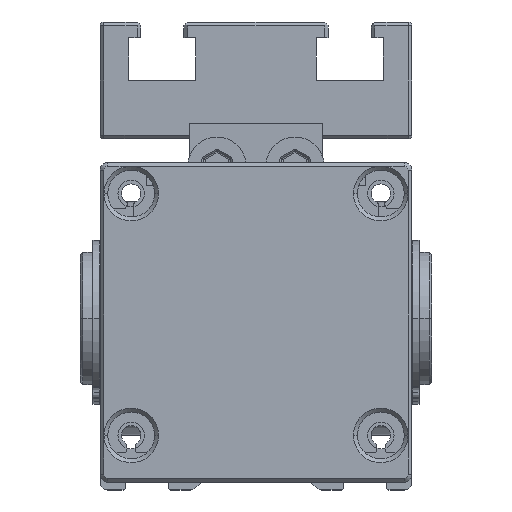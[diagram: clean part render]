
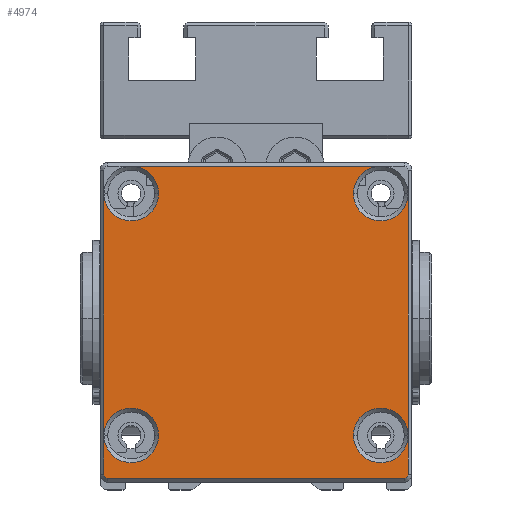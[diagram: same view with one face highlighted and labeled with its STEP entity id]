
A CAD part, front view. The second image highlights one B-rep face of the part: STEP entity #4974.
In plain terms, the highlighted planar face has unit normal (0, -1, 0) as drawn and (0, 0, 1) by its records, which use the part's own axes.
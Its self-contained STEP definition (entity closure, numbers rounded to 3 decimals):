
#61 = VERTEX_POINT ( 'NONE', #91951 ) ;
#3138 = DIRECTION ( 'NONE',  ( 1., 0., 0. ) ) ;
#4871 = DIRECTION ( 'NONE',  ( 0., 0., 1. ) ) ;
#4974 = ADVANCED_FACE ( 'NONE', ( #23730 ), #13453, .T. ) ;
#5372 = VECTOR ( 'NONE', #34587, 1000. ) ;
#5444 = CARTESIAN_POINT ( 'NONE',  ( -16., 7., 346. ) ) ;
#5538 = ORIENTED_EDGE ( 'NONE', *, *, #116993, .F. ) ;
#6591 = VERTEX_POINT ( 'NONE', #24193 ) ;
#7731 = CARTESIAN_POINT ( 'NONE',  ( 16., 7., 346. ) ) ;
#7778 = DIRECTION ( 'NONE',  ( 1., 0., 0. ) ) ;
#7997 = AXIS2_PLACEMENT_3D ( 'NONE', #113699, #100982, #53299 ) ;
#9792 = ORIENTED_EDGE ( 'NONE', *, *, #113357, .F. ) ;
#11196 = CIRCLE ( 'NONE', #125311, 3.5 ) ;
#12161 = ORIENTED_EDGE ( 'NONE', *, *, #16689, .F. ) ;
#13453 = PLANE ( 'NONE',  #122230 ) ;
#15129 = CARTESIAN_POINT ( 'NONE',  ( 0., 41.5, 346. ) ) ;
#16345 = DIRECTION ( 'NONE',  ( 0., 1., 0. ) ) ;
#16689 = EDGE_CURVE ( 'NONE', #94944, #132899, #91617, .T. ) ;
#17379 = ORIENTED_EDGE ( 'NONE', *, *, #125447, .F. ) ;
#18287 = VERTEX_POINT ( 'NONE', #54007 ) ;
#19730 = CARTESIAN_POINT ( 'NONE',  ( -12.5, 7., 346. ) ) ;
#23600 = DIRECTION ( 'NONE',  ( 1., 0., 0. ) ) ;
#23642 = ORIENTED_EDGE ( 'NONE', *, *, #93774, .F. ) ;
#23730 = FACE_OUTER_BOUND ( 'NONE', #81488, .T. ) ;
#23928 = AXIS2_PLACEMENT_3D ( 'NONE', #105392, #70496, #7778 ) ;
#24193 = CARTESIAN_POINT ( 'NONE',  ( -16., 41.5, 346. ) ) ;
#24391 = VERTEX_POINT ( 'NONE', #100093 ) ;
#25455 = ORIENTED_EDGE ( 'NONE', *, *, #153480, .F. ) ;
#28966 = CIRCLE ( 'NONE', #23928, 3.5 ) ;
#29107 = EDGE_CURVE ( 'NONE', #52974, #18287, #28966, .T. ) ;
#33372 = AXIS2_PLACEMENT_3D ( 'NONE', #40548, #4871, #53222 ) ;
#34587 = DIRECTION ( 'NONE',  ( 0., 1., 0. ) ) ;
#38797 = DIRECTION ( 'NONE',  ( 1., 0., 0. ) ) ;
#39067 = DIRECTION ( 'NONE',  ( 0., 1., 0. ) ) ;
#40499 = AXIS2_PLACEMENT_3D ( 'NONE', #7731, #106129, #81568 ) ;
#40548 = CARTESIAN_POINT ( 'NONE',  ( 16., 38., 346. ) ) ;
#40894 = DIRECTION ( 'NONE',  ( 0., 0., 1. ) ) ;
#42558 = CIRCLE ( 'NONE', #88327, 3.5 ) ;
#42636 = CARTESIAN_POINT ( 'NONE',  ( 0., 1.5, 346. ) ) ;
#43476 = CARTESIAN_POINT ( 'NONE',  ( 19.5, 2., 346. ) ) ;
#45815 = ORIENTED_EDGE ( 'NONE', *, *, #75253, .T. ) ;
#46676 = EDGE_CURVE ( 'NONE', #128484, #18287, #147942, .T. ) ;
#48312 = DIRECTION ( 'NONE',  ( 1., 0., 0. ) ) ;
#48807 = CIRCLE ( 'NONE', #109679, 0.5 ) ;
#50990 = CARTESIAN_POINT ( 'NONE',  ( 19.5, 4.5, 346. ) ) ;
#52974 = VERTEX_POINT ( 'NONE', #87001 ) ;
#53222 = DIRECTION ( 'NONE',  ( 1., 0., 0. ) ) ;
#53299 = DIRECTION ( 'NONE',  ( -1., 0., 0. ) ) ;
#53649 = DIRECTION ( 'NONE',  ( 0., 0., 1. ) ) ;
#54005 = ORIENTED_EDGE ( 'NONE', *, *, #55965, .F. ) ;
#54007 = CARTESIAN_POINT ( 'NONE',  ( 19.5, 7., 346. ) ) ;
#54433 = DIRECTION ( 'NONE',  ( 1., 0., 0. ) ) ;
#54811 = ORIENTED_EDGE ( 'NONE', *, *, #87635, .T. ) ;
#55358 = DIRECTION ( 'NONE',  ( -1., 0., 0. ) ) ;
#55965 = EDGE_CURVE ( 'NONE', #118225, #6591, #68586, .T. ) ;
#56865 = CARTESIAN_POINT ( 'NONE',  ( -19.5, 7., 346. ) ) ;
#59035 = DIRECTION ( 'NONE',  ( 0., 1., 0. ) ) ;
#62810 = VECTOR ( 'NONE', #39067, 1000. ) ;
#63953 = CARTESIAN_POINT ( 'NONE',  ( -16., 7., 346. ) ) ;
#67866 = VERTEX_POINT ( 'NONE', #19730 ) ;
#68586 = CIRCLE ( 'NONE', #111664, 3.5 ) ;
#68848 = DIRECTION ( 'NONE',  ( 1., 0., 0. ) ) ;
#69553 = LINE ( 'NONE', #82255, #5372 ) ;
#70220 = VERTEX_POINT ( 'NONE', #116704 ) ;
#70496 = DIRECTION ( 'NONE',  ( 0., 0., 1. ) ) ;
#75253 = EDGE_CURVE ( 'NONE', #99166, #148672, #151493, .T. ) ;
#77661 = CARTESIAN_POINT ( 'NONE',  ( -19., 2., 346. ) ) ;
#77754 = CARTESIAN_POINT ( 'NONE',  ( -12.5, 38., 346. ) ) ;
#78286 = CARTESIAN_POINT ( 'NONE',  ( -16., 38., 346. ) ) ;
#78644 = CARTESIAN_POINT ( 'NONE',  ( -19., 1.5, 346. ) ) ;
#78925 = CIRCLE ( 'NONE', #7997, 0.5 ) ;
#80789 = DIRECTION ( 'NONE',  ( 0., 0., 1. ) ) ;
#81488 = EDGE_LOOP ( 'NONE', ( #25455, #149439, #17379, #5538, #155360, #45815, #113198, #155439, #155915, #118400, #54811, #9792, #12161, #120708, #54005, #23642 ) ) ;
#81568 = DIRECTION ( 'NONE',  ( 1., 0., 0. ) ) ;
#81995 = CARTESIAN_POINT ( 'NONE',  ( -16., 38., 346. ) ) ;
#82255 = CARTESIAN_POINT ( 'NONE',  ( -19.5, 22.5, 346. ) ) ;
#86084 = LINE ( 'NONE', #122591, #87103 ) ;
#87001 = CARTESIAN_POINT ( 'NONE',  ( 12.5, 7., 346. ) ) ;
#87103 = VECTOR ( 'NONE', #59035, 1000. ) ;
#87635 = EDGE_CURVE ( 'NONE', #18287, #61, #86084, .T. ) ;
#88327 = AXIS2_PLACEMENT_3D ( 'NONE', #5444, #101495, #38797 ) ;
#91617 = CIRCLE ( 'NONE', #33372, 3.5 ) ;
#91951 = CARTESIAN_POINT ( 'NONE',  ( 19.5, 38., 346. ) ) ;
#92493 = VECTOR ( 'NONE', #16345, 1000. ) ;
#93774 = EDGE_CURVE ( 'NONE', #70220, #118225, #11196, .T. ) ;
#94944 = VERTEX_POINT ( 'NONE', #97674 ) ;
#95973 = DIRECTION ( 'NONE',  ( 0., 0., 1. ) ) ;
#97674 = CARTESIAN_POINT ( 'NONE',  ( 16., 41.5, 346. ) ) ;
#99166 = VERTEX_POINT ( 'NONE', #78644 ) ;
#100093 = CARTESIAN_POINT ( 'NONE',  ( -19.5, 2., 346. ) ) ;
#100982 = DIRECTION ( 'NONE',  ( 0., 0., -1. ) ) ;
#101495 = DIRECTION ( 'NONE',  ( 0., 0., 1. ) ) ;
#102792 = EDGE_CURVE ( 'NONE', #99166, #24391, #48807, .T. ) ;
#104086 = AXIS2_PLACEMENT_3D ( 'NONE', #154700, #80789, #23600 ) ;
#105392 = CARTESIAN_POINT ( 'NONE',  ( 16., 7., 346. ) ) ;
#106129 = DIRECTION ( 'NONE',  ( 0., 0., 1. ) ) ;
#109679 = AXIS2_PLACEMENT_3D ( 'NONE', #77661, #149995, #55358 ) ;
#111664 = AXIS2_PLACEMENT_3D ( 'NONE', #78286, #53649, #54433 ) ;
#112102 = VECTOR ( 'NONE', #68848, 1000. ) ;
#112415 = DIRECTION ( 'NONE',  ( 1., 0., 0. ) ) ;
#112650 = EDGE_CURVE ( 'NONE', #18287, #52974, #116618, .T. ) ;
#113198 = ORIENTED_EDGE ( 'NONE', *, *, #133015, .F. ) ;
#113357 = EDGE_CURVE ( 'NONE', #132899, #61, #114191, .T. ) ;
#113699 = CARTESIAN_POINT ( 'NONE',  ( 19., 2., 346. ) ) ;
#114191 = CIRCLE ( 'NONE', #104086, 3.5 ) ;
#116618 = CIRCLE ( 'NONE', #40499, 3.5 ) ;
#116704 = CARTESIAN_POINT ( 'NONE',  ( -19.5, 38., 346. ) ) ;
#116993 = EDGE_CURVE ( 'NONE', #24391, #122256, #148956, .T. ) ;
#117775 = DIRECTION ( 'NONE',  ( 0., 0., 1. ) ) ;
#118225 = VERTEX_POINT ( 'NONE', #77754 ) ;
#118400 = ORIENTED_EDGE ( 'NONE', *, *, #112650, .F. ) ;
#118633 = CARTESIAN_POINT ( 'NONE',  ( 12.5, 38., 346. ) ) ;
#120708 = ORIENTED_EDGE ( 'NONE', *, *, #157194, .F. ) ;
#122230 = AXIS2_PLACEMENT_3D ( 'NONE', #156432, #95973, #48312 ) ;
#122256 = VERTEX_POINT ( 'NONE', #56865 ) ;
#122591 = CARTESIAN_POINT ( 'NONE',  ( 19.5, 22.5, 346. ) ) ;
#123838 = LINE ( 'NONE', #15129, #146851 ) ;
#125311 = AXIS2_PLACEMENT_3D ( 'NONE', #81995, #117775, #154301 ) ;
#125447 = EDGE_CURVE ( 'NONE', #122256, #67866, #42558, .T. ) ;
#128040 = AXIS2_PLACEMENT_3D ( 'NONE', #63953, #40894, #112415 ) ;
#128484 = VERTEX_POINT ( 'NONE', #43476 ) ;
#132899 = VERTEX_POINT ( 'NONE', #118633 ) ;
#133015 = EDGE_CURVE ( 'NONE', #128484, #148672, #78925, .T. ) ;
#137010 = CARTESIAN_POINT ( 'NONE',  ( -19.5, 4.5, 346. ) ) ;
#138801 = CARTESIAN_POINT ( 'NONE',  ( 19., 1.5, 346. ) ) ;
#143282 = EDGE_CURVE ( 'NONE', #67866, #122256, #148377, .T. ) ;
#146851 = VECTOR ( 'NONE', #3138, 1000. ) ;
#147942 = LINE ( 'NONE', #50990, #62810 ) ;
#148377 = CIRCLE ( 'NONE', #128040, 3.5 ) ;
#148672 = VERTEX_POINT ( 'NONE', #138801 ) ;
#148956 = LINE ( 'NONE', #137010, #92493 ) ;
#149439 = ORIENTED_EDGE ( 'NONE', *, *, #143282, .F. ) ;
#149995 = DIRECTION ( 'NONE',  ( 0., 0., -1. ) ) ;
#151493 = LINE ( 'NONE', #42636, #112102 ) ;
#153480 = EDGE_CURVE ( 'NONE', #122256, #70220, #69553, .T. ) ;
#154301 = DIRECTION ( 'NONE',  ( 1., 0., 0. ) ) ;
#154700 = CARTESIAN_POINT ( 'NONE',  ( 16., 38., 346. ) ) ;
#155360 = ORIENTED_EDGE ( 'NONE', *, *, #102792, .F. ) ;
#155439 = ORIENTED_EDGE ( 'NONE', *, *, #46676, .T. ) ;
#155915 = ORIENTED_EDGE ( 'NONE', *, *, #29107, .F. ) ;
#156432 = CARTESIAN_POINT ( 'NONE',  ( 0., 1., 346. ) ) ;
#157194 = EDGE_CURVE ( 'NONE', #6591, #94944, #123838, .T. ) ;
